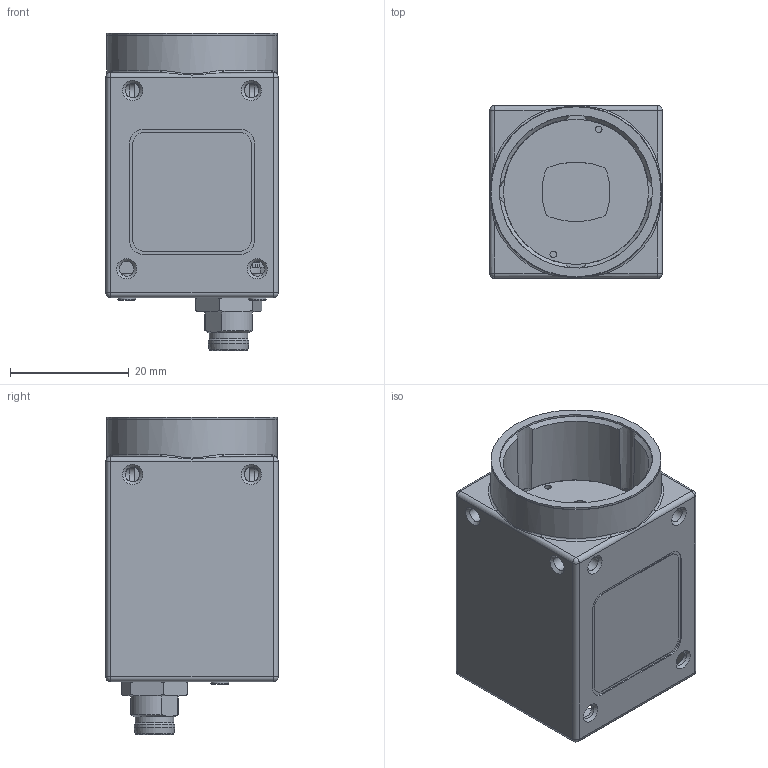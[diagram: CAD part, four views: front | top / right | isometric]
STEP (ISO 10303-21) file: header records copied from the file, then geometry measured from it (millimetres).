
FILE_DESCRIPTION( ( 'Unknown' ), '1' );
FILE_NAME( 'C:/Users/rih/Desktop/11165914_VCXU-02M.stp', '14.10.2014', ( 'Unknown' ), ( 'Unknown' ), 'PSStep 15.0.49', 'Unknown', ' ' );
FILE_SCHEMA( ( 'AUTOMOTIVE_DESIGN { 1 0 10303 214 1 1 1 1 }' ) );
Length unit declared in the file: millimetre
Products named in the file (3): 11104603
Bounding box: 29 x 29 x 53.35 mm (x, y, z)
Volume: 10566 mm3; surface area: 15283.7 mm2
Topology: 3 solids, 8 shells, 1904 faces, 5333 edges, 3468 vertices
Faces by surface type: plane 1283, cylinder 471, cone 71, torus 27, sphere 24, bspline 24, extrusion 4
Full cylindrical faces by diameter (mm): 0.217 x1, 0.6 x16, 0.7 x1, 0.9 x1, 1.1 x2, 1.4 x4, 1.567 x2, 1.6 x2, 1.9 x4, 2.459 x10, 3 x4, 6.5 x1, 6.9 x1, 8.4 x1, 9 x1, 9.4 x1, 24.4 x1, 25.7 x1, 26 x1, 28.6 x1, 28.7 x1
Entity records: 91000 total; most frequent: CARTESIAN_POINT 14844, ORIENTED_EDGE 10228, DIRECTION 9661, EDGE_CURVE 5114, PRESENTATION_STYLE_ASSIGNMENT 4571, COLOUR_RGB 4571, STYLED_ITEM 3803, VECTOR 3689
